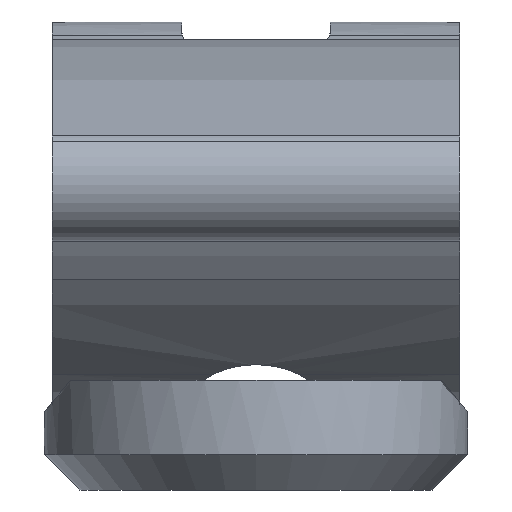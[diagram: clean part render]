
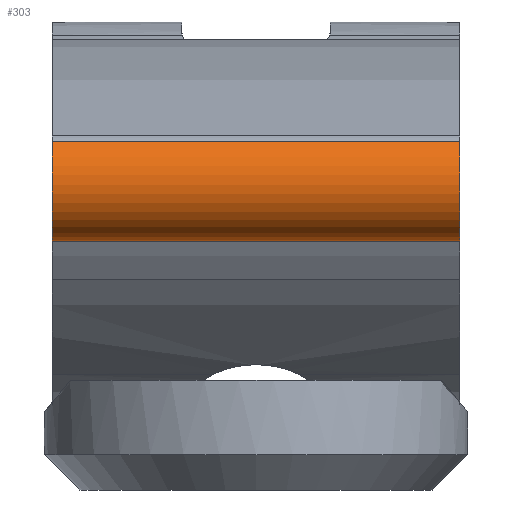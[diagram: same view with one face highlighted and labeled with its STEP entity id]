
A CAD part, left-side view. The second image highlights one B-rep face of the part: STEP entity #303.
In plain terms, the highlighted cylindrical face has radius 1.62 mm (diameter 3.241 mm), a partial arc.
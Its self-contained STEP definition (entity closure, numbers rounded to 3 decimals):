
#303=ADVANCED_FACE('',(#544),#546,.T.);
#544=FACE_BOUND('',#545,.T.);
#545=EDGE_LOOP('',(#689,#690,#691,#692));
#546=CYLINDRICAL_SURFACE('',#547,1.62);
#547=AXIS2_PLACEMENT_3D('',#548,#549,#550);
#548=CARTESIAN_POINT('',(-34.76,0.,0.552));
#549=DIRECTION('',(0.,1.,0.));
#550=DIRECTION('',(0.253,0.,-0.967));
#689=ORIENTED_EDGE('',*,*,#760,.T.);
#690=ORIENTED_EDGE('',*,*,#750,.F.);
#691=ORIENTED_EDGE('',*,*,#763,.F.);
#692=ORIENTED_EDGE('',*,*,#754,.T.);
#750=EDGE_CURVE('',#866,#857,#868,.T.);
#754=EDGE_CURVE('',#875,#872,#876,.T.);
#760=EDGE_CURVE('',#872,#857,#884,.T.);
#763=EDGE_CURVE('',#875,#866,#887,.T.);
#857=VERTEX_POINT('',#1786);
#866=VERTEX_POINT('',#1810);
#868=CIRCLE('',#1815,1.62);
#872=VERTEX_POINT('',#1827);
#875=VERTEX_POINT('',#1833);
#876=CIRCLE('',#1834,1.62);
#884=LINE('',#1859,#1860);
#887=LINE('',#1868,#1869);
#1786=CARTESIAN_POINT('',(-35.844,11.5,1.757));
#1810=CARTESIAN_POINT('',(-34.35,11.5,-1.015));
#1815=AXIS2_PLACEMENT_3D('',#1816,#1817,#1818);
#1816=CARTESIAN_POINT('',(-34.76,11.5,0.552));
#1817=DIRECTION('',(0.,1.,0.));
#1818=DIRECTION('',(0.253,0.,-0.967));
#1827=CARTESIAN_POINT('',(-35.844,0.,1.757));
#1833=CARTESIAN_POINT('',(-34.35,0.,-1.015));
#1834=AXIS2_PLACEMENT_3D('',#1835,#1836,#1837);
#1835=CARTESIAN_POINT('',(-34.76,0.,0.552));
#1836=DIRECTION('',(0.,1.,0.));
#1837=DIRECTION('',(0.253,0.,-0.967));
#1859=CARTESIAN_POINT('',(-35.844,0.,1.757));
#1860=VECTOR('',#1861,1.);
#1861=DIRECTION('',(0.,1.,0.));
#1868=CARTESIAN_POINT('',(-34.35,0.,-1.015));
#1869=VECTOR('',#1870,1.);
#1870=DIRECTION('',(0.,1.,0.));
